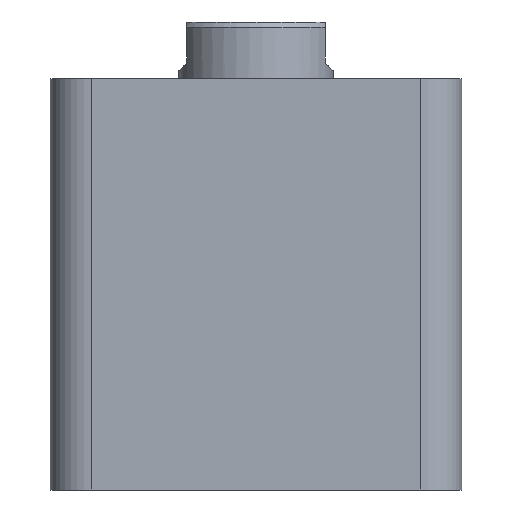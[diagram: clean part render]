
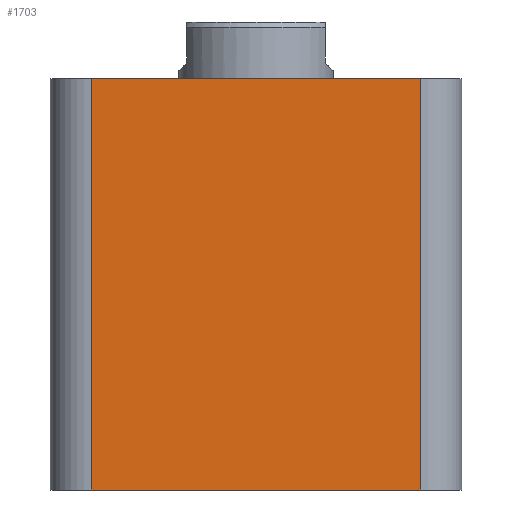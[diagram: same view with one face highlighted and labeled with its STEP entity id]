
A CAD part, front view. The second image highlights one B-rep face of the part: STEP entity #1703.
In plain terms, the highlighted planar face has unit normal (0, -1, 0).
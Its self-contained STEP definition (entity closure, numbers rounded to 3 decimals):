
#137 = ORIENTED_EDGE ( 'NONE', *, *, #922, .T. ) ;
#161 = VERTEX_POINT ( 'NONE', #1926 ) ;
#251 = VERTEX_POINT ( 'NONE', #1833 ) ;
#259 = ORIENTED_EDGE ( 'NONE', *, *, #461, .T. ) ;
#319 = VERTEX_POINT ( 'NONE', #2012 ) ;
#386 = VERTEX_POINT ( 'NONE', #1985 ) ;
#461 = EDGE_CURVE ( 'NONE', #319, #386, #1435, .T. ) ;
#543 = DIRECTION ( 'NONE',  ( 1., 0., 0. ) ) ;
#546 = CARTESIAN_POINT ( 'NONE',  ( -40., -40., 0. ) ) ;
#548 = DIRECTION ( 'NONE',  ( 0., 0., -1. ) ) ;
#549 = CARTESIAN_POINT ( 'NONE',  ( -32., -40., 80. ) ) ;
#550 = DIRECTION ( 'NONE',  ( 1., 0., 0. ) ) ;
#551 = CARTESIAN_POINT ( 'NONE',  ( -40., -40., 80. ) ) ;
#921 = EDGE_CURVE ( 'NONE', #161, #386, #1417, .T. ) ;
#922 = EDGE_CURVE ( 'NONE', #161, #251, #1415, .T. ) ;
#923 = EDGE_CURVE ( 'NONE', #251, #319, #1412, .T. ) ;
#1171 = FACE_OUTER_BOUND ( 'NONE', #1476, .T. ) ;
#1407 = VECTOR ( 'NONE', #543, 1000. ) ;
#1411 = VECTOR ( 'NONE', #548, 1000. ) ;
#1412 = LINE ( 'NONE', #546, #1407 ) ;
#1413 = VECTOR ( 'NONE', #550, 1000. ) ;
#1415 = LINE ( 'NONE', #549, #1411 ) ;
#1417 = LINE ( 'NONE', #551, #1413 ) ;
#1435 = LINE ( 'NONE', #1965, #1445 ) ;
#1445 = VECTOR ( 'NONE', #1963, 1000. ) ;
#1476 = EDGE_LOOP ( 'NONE', ( #1635, #137, #1597, #259 ) ) ;
#1597 = ORIENTED_EDGE ( 'NONE', *, *, #923, .T. ) ;
#1635 = ORIENTED_EDGE ( 'NONE', *, *, #921, .F. ) ;
#1703 = ADVANCED_FACE ( 'NONE', ( #1171 ), #2308, .F. ) ;
#1833 = CARTESIAN_POINT ( 'NONE',  ( -32., -40., 0. ) ) ;
#1926 = CARTESIAN_POINT ( 'NONE',  ( -32., -40., 80. ) ) ;
#1963 = DIRECTION ( 'NONE',  ( 0., 0., 1. ) ) ;
#1965 = CARTESIAN_POINT ( 'NONE',  ( 32., -40., 80. ) ) ;
#1985 = CARTESIAN_POINT ( 'NONE',  ( 32., -40., 80. ) ) ;
#2012 = CARTESIAN_POINT ( 'NONE',  ( 32., -40., 0. ) ) ;
#2088 = AXIS2_PLACEMENT_3D ( 'NONE', #2305, #2309, #2311 ) ;
#2305 = CARTESIAN_POINT ( 'NONE',  ( -40., -40., 80. ) ) ;
#2308 = PLANE ( 'NONE',  #2088 ) ;
#2309 = DIRECTION ( 'NONE',  ( 0., 1., 0. ) ) ;
#2311 = DIRECTION ( 'NONE',  ( 0., 0., 1. ) ) ;
